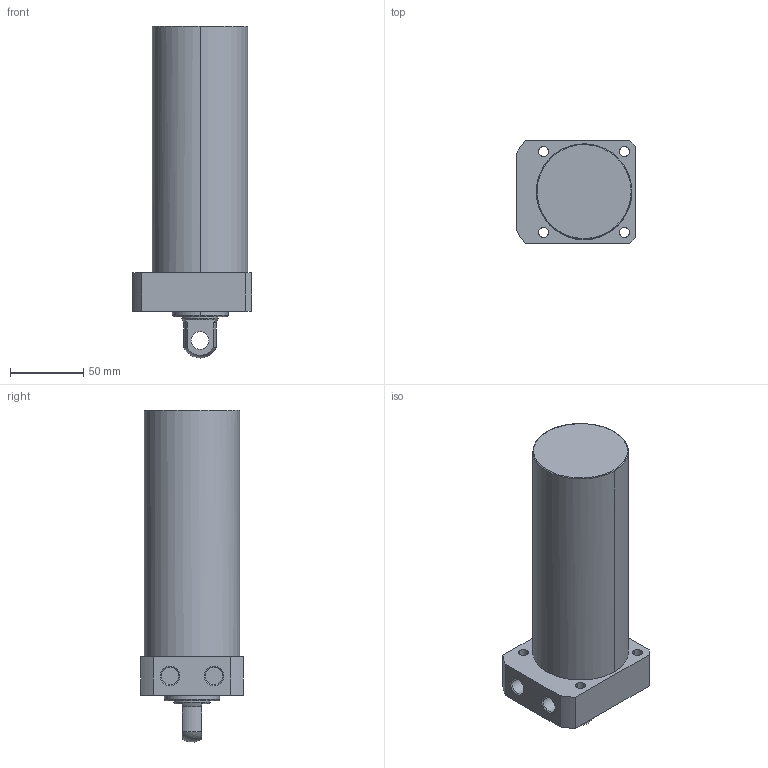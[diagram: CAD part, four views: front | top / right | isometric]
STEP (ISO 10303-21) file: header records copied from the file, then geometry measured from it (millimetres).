
FILE_DESCRIPTION((' '),'2;1');
FILE_NAME( 'TLLR-065CP-135.STEP.stp', '2025-10-24T16:35:04', (' '), ('--- Datakit www.datakit.com---'), ' Datakit CrossCadWare V2024.1 Dec 21 2023', 'Mastercam 2025', ' ');
FILE_SCHEMA(('AUTOMOTIVE_DESIGN { 1 0 10303 214 1 1 1 1 }'));
Length unit declared in the file: millimetre
Products named in the file (1): TLLR-065CP-135
Bounding box: 81 x 70 x 225.92 mm (x, y, z)
Volume: 705106.4 mm3; surface area: 58670.2 mm2
Topology: 1 solids, 1 shells, 57 faces, 164 edges, 116 vertices
Faces by surface type: cylinder 28, plane 18, cone 8, torus 2, sphere 1
Entity records: 2006 total; most frequent: DIRECTION 378, CARTESIAN_POINT 350, ORIENTED_EDGE 328, EDGE_CURVE 164, AXIS2_PLACEMENT_3D 160, VERTEX_POINT 116, CIRCLE 102, EDGE_LOOP 74
